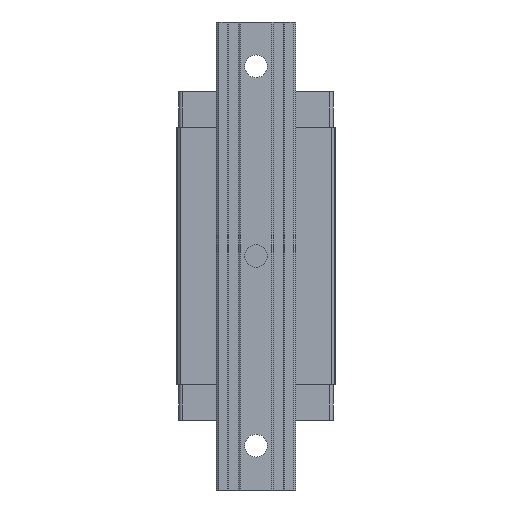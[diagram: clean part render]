
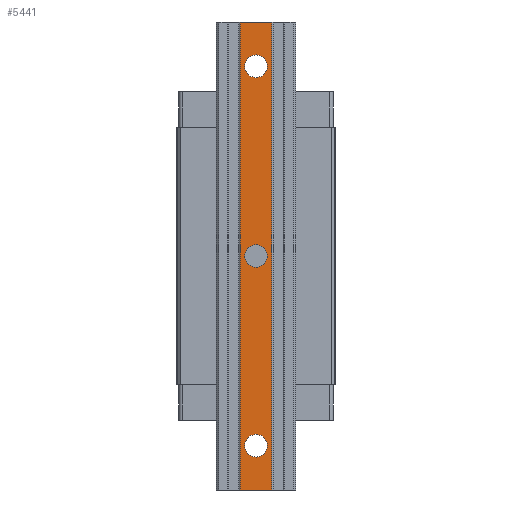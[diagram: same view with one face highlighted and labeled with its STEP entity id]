
A CAD part, front view. The second image highlights one B-rep face of the part: STEP entity #5441.
In plain terms, the highlighted planar face has unit normal (0, -1, 0).
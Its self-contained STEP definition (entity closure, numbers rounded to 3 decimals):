
#29 = CIRCLE ( 'NONE', #6246, 9. ) ;
#61 = EDGE_CURVE ( 'NONE', #5233, #4482, #4976, .T. ) ;
#65 = DIRECTION ( 'NONE',  ( 0., 1., 0. ) ) ;
#269 = CIRCLE ( 'NONE', #1019, 9. ) ;
#370 = CARTESIAN_POINT ( 'NONE',  ( 12.5, -53., -185. ) ) ;
#373 = CARTESIAN_POINT ( 'NONE',  ( -12.5, -53., -185. ) ) ;
#479 = EDGE_CURVE ( 'NONE', #5608, #5233, #5261, .T. ) ;
#566 = DIRECTION ( 'NONE',  ( 0., 0., 1. ) ) ;
#746 = EDGE_LOOP ( 'NONE', ( #4217, #4241 ) ) ;
#1019 = AXIS2_PLACEMENT_3D ( 'NONE', #5713, #1220, #4275 ) ;
#1134 = CARTESIAN_POINT ( 'NONE',  ( 0., -53., -185. ) ) ;
#1220 = DIRECTION ( 'NONE',  ( 0., 1., 0. ) ) ;
#1280 = EDGE_CURVE ( 'NONE', #5570, #5547, #1497, .T. ) ;
#1298 = ORIENTED_EDGE ( 'NONE', *, *, #61, .T. ) ;
#1402 = FACE_BOUND ( 'NONE', #5816, .T. ) ;
#1429 = ORIENTED_EDGE ( 'NONE', *, *, #3626, .T. ) ;
#1470 = CARTESIAN_POINT ( 'NONE',  ( -12.5, -53., -185. ) ) ;
#1497 = CIRCLE ( 'NONE', #6193, 9. ) ;
#1537 = CARTESIAN_POINT ( 'NONE',  ( 0., -53., 0. ) ) ;
#1553 = EDGE_CURVE ( 'NONE', #5943, #6471, #29, .T. ) ;
#1841 = DIRECTION ( 'NONE',  ( 0., 1., 0. ) ) ;
#1910 = VECTOR ( 'NONE', #4455, 1000. ) ;
#1945 = DIRECTION ( 'NONE',  ( 0., 0., 1. ) ) ;
#2074 = ORIENTED_EDGE ( 'NONE', *, *, #5249, .F. ) ;
#2270 = CARTESIAN_POINT ( 'NONE',  ( 0., -53., 141. ) ) ;
#2276 = CARTESIAN_POINT ( 'NONE',  ( 0., -53., -141. ) ) ;
#2466 = DIRECTION ( 'NONE',  ( 1., 0., 0. ) ) ;
#2495 = CARTESIAN_POINT ( 'NONE',  ( 0., -53., -159. ) ) ;
#2558 = CARTESIAN_POINT ( 'NONE',  ( -12.5, -53., 185. ) ) ;
#2685 = VERTEX_POINT ( 'NONE', #2495 ) ;
#2805 = DIRECTION ( 'NONE',  ( 0., 0., 1. ) ) ;
#2844 = ORIENTED_EDGE ( 'NONE', *, *, #1280, .T. ) ;
#2845 = EDGE_CURVE ( 'NONE', #4347, #2685, #6321, .T. ) ;
#2952 = LINE ( 'NONE', #6608, #4360 ) ;
#3209 = CARTESIAN_POINT ( 'NONE',  ( 0., -53., 9. ) ) ;
#3375 = CARTESIAN_POINT ( 'NONE',  ( 0., -53., 150. ) ) ;
#3432 = AXIS2_PLACEMENT_3D ( 'NONE', #4152, #65, #566 ) ;
#3471 = DIRECTION ( 'NONE',  ( 0., 1., 0. ) ) ;
#3498 = DIRECTION ( 'NONE',  ( 0., -1., 0. ) ) ;
#3545 = VERTEX_POINT ( 'NONE', #2558 ) ;
#3575 = DIRECTION ( 'NONE',  ( 0., 1., 0. ) ) ;
#3626 = EDGE_CURVE ( 'NONE', #5547, #5570, #269, .T. ) ;
#3743 = CARTESIAN_POINT ( 'NONE',  ( 0., -53., 159. ) ) ;
#3869 = EDGE_LOOP ( 'NONE', ( #5101, #5423, #1298, #2074 ) ) ;
#3916 = FACE_OUTER_BOUND ( 'NONE', #3869, .T. ) ;
#3954 = CARTESIAN_POINT ( 'NONE',  ( 12.5, -53., -185. ) ) ;
#3972 = VECTOR ( 'NONE', #6230, 1000. ) ;
#3975 = CARTESIAN_POINT ( 'NONE',  ( -12.5, -53., -185. ) ) ;
#3998 = CIRCLE ( 'NONE', #6459, 9. ) ;
#4050 = LINE ( 'NONE', #3975, #1910 ) ;
#4152 = CARTESIAN_POINT ( 'NONE',  ( 0., -53., -150. ) ) ;
#4217 = ORIENTED_EDGE ( 'NONE', *, *, #2845, .T. ) ;
#4241 = ORIENTED_EDGE ( 'NONE', *, *, #4572, .T. ) ;
#4248 = ORIENTED_EDGE ( 'NONE', *, *, #1553, .T. ) ;
#4275 = DIRECTION ( 'NONE',  ( 0., 0., 1. ) ) ;
#4344 = VECTOR ( 'NONE', #6206, 1000. ) ;
#4347 = VERTEX_POINT ( 'NONE', #2276 ) ;
#4360 = VECTOR ( 'NONE', #2466, 1000. ) ;
#4384 = DIRECTION ( 'NONE',  ( 0., 0., 1. ) ) ;
#4408 = DIRECTION ( 'NONE',  ( 0., 1., 0. ) ) ;
#4455 = DIRECTION ( 'NONE',  ( 0., 0., -1. ) ) ;
#4482 = VERTEX_POINT ( 'NONE', #5217 ) ;
#4572 = EDGE_CURVE ( 'NONE', #2685, #4347, #4889, .T. ) ;
#4620 = DIRECTION ( 'NONE',  ( 0., 0., 1. ) ) ;
#4706 = EDGE_LOOP ( 'NONE', ( #1429, #2844 ) ) ;
#4889 = CIRCLE ( 'NONE', #6379, 9. ) ;
#4935 = CARTESIAN_POINT ( 'NONE',  ( 0., -53., -150. ) ) ;
#4976 = LINE ( 'NONE', #370, #3972 ) ;
#5047 = FACE_BOUND ( 'NONE', #746, .T. ) ;
#5101 = ORIENTED_EDGE ( 'NONE', *, *, #6558, .T. ) ;
#5142 = DIRECTION ( 'NONE',  ( 0., 0., -1. ) ) ;
#5148 = AXIS2_PLACEMENT_3D ( 'NONE', #1470, #3498, #5142 ) ;
#5217 = CARTESIAN_POINT ( 'NONE',  ( 12.5, -53., 185. ) ) ;
#5233 = VERTEX_POINT ( 'NONE', #3954 ) ;
#5249 = EDGE_CURVE ( 'NONE', #3545, #4482, #2952, .T. ) ;
#5261 = LINE ( 'NONE', #1134, #4344 ) ;
#5423 = ORIENTED_EDGE ( 'NONE', *, *, #479, .T. ) ;
#5441 = ADVANCED_FACE ( 'NONE', ( #5047, #5544, #1402, #3916 ), #6497, .T. ) ;
#5544 = FACE_BOUND ( 'NONE', #4706, .T. ) ;
#5547 = VERTEX_POINT ( 'NONE', #3743 ) ;
#5570 = VERTEX_POINT ( 'NONE', #2270 ) ;
#5608 = VERTEX_POINT ( 'NONE', #373 ) ;
#5713 = CARTESIAN_POINT ( 'NONE',  ( 0., -53., 150. ) ) ;
#5798 = CARTESIAN_POINT ( 'NONE',  ( 0., -53., -9. ) ) ;
#5816 = EDGE_LOOP ( 'NONE', ( #6516, #4248 ) ) ;
#5878 = CARTESIAN_POINT ( 'NONE',  ( 0., -53., 0. ) ) ;
#5943 = VERTEX_POINT ( 'NONE', #5798 ) ;
#6172 = EDGE_CURVE ( 'NONE', #6471, #5943, #3998, .T. ) ;
#6193 = AXIS2_PLACEMENT_3D ( 'NONE', #3375, #3471, #1945 ) ;
#6206 = DIRECTION ( 'NONE',  ( 1., 0., 0. ) ) ;
#6230 = DIRECTION ( 'NONE',  ( 0., 0., 1. ) ) ;
#6246 = AXIS2_PLACEMENT_3D ( 'NONE', #5878, #1841, #4384 ) ;
#6321 = CIRCLE ( 'NONE', #3432, 9. ) ;
#6379 = AXIS2_PLACEMENT_3D ( 'NONE', #4935, #4408, #2805 ) ;
#6459 = AXIS2_PLACEMENT_3D ( 'NONE', #1537, #3575, #4620 ) ;
#6471 = VERTEX_POINT ( 'NONE', #3209 ) ;
#6497 = PLANE ( 'NONE',  #5148 ) ;
#6516 = ORIENTED_EDGE ( 'NONE', *, *, #6172, .T. ) ;
#6558 = EDGE_CURVE ( 'NONE', #3545, #5608, #4050, .T. ) ;
#6608 = CARTESIAN_POINT ( 'NONE',  ( 0., -53., 185. ) ) ;
